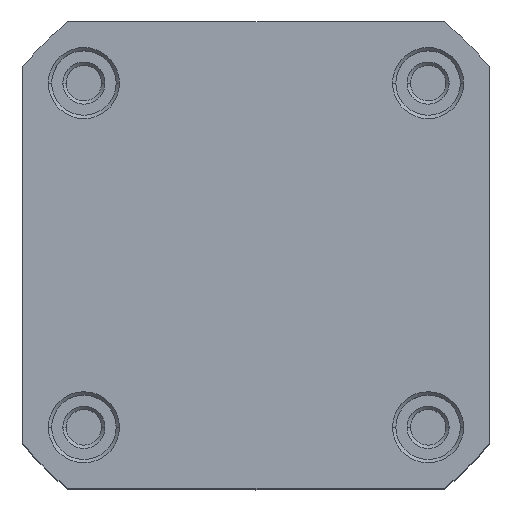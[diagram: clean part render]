
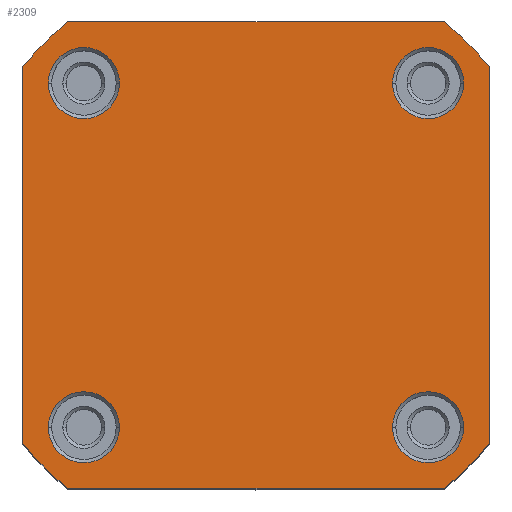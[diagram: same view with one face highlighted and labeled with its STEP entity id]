
A CAD part, top view. The second image highlights one B-rep face of the part: STEP entity #2309.
In plain terms, the highlighted planar face has unit normal (0, 0, 1).
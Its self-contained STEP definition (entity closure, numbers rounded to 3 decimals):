
#33 = CIRCLE ( 'NONE', #2644, 3.2 ) ;
#71 = LINE ( 'NONE', #3740, #2387 ) ;
#73 = CARTESIAN_POINT ( 'NONE',  ( -12.3, -15.5, 88. ) ) ;
#88 = CARTESIAN_POINT ( 'NONE',  ( 16.971, 21., 88. ) ) ;
#98 = LINE ( 'NONE', #2199, #3519 ) ;
#141 = CARTESIAN_POINT ( 'NONE',  ( -21., 16.971, 88. ) ) ;
#150 = EDGE_CURVE ( 'NONE', #611, #1398, #3432, .T. ) ;
#185 = EDGE_CURVE ( 'NONE', #3699, #4275, #71, .T. ) ;
#198 = DIRECTION ( 'NONE',  ( 1., 0., 0. ) ) ;
#200 = DIRECTION ( 'NONE',  ( 1., 0., 0. ) ) ;
#225 = DIRECTION ( 'NONE',  ( 1., 0., 0. ) ) ;
#253 = DIRECTION ( 'NONE',  ( 0., 0., -1. ) ) ;
#257 = DIRECTION ( 'NONE',  ( 0., 0., 1. ) ) ;
#259 = AXIS2_PLACEMENT_3D ( 'NONE', #907, #1886, #225 ) ;
#316 = AXIS2_PLACEMENT_3D ( 'NONE', #2484, #4107, #2444 ) ;
#329 = EDGE_CURVE ( 'NONE', #2884, #3475, #3039, .T. ) ;
#351 = EDGE_CURVE ( 'NONE', #1398, #2653, #3428, .T. ) ;
#356 = CARTESIAN_POINT ( 'NONE',  ( -16.971, 21., 88. ) ) ;
#406 = EDGE_CURVE ( 'NONE', #2632, #3703, #2531, .T. ) ;
#438 = EDGE_CURVE ( 'NONE', #3703, #2632, #1532, .T. ) ;
#453 = ORIENTED_EDGE ( 'NONE', *, *, #4204, .T. ) ;
#485 = DIRECTION ( 'NONE',  ( 1., 0., 0. ) ) ;
#547 = ORIENTED_EDGE ( 'NONE', *, *, #1919, .T. ) ;
#562 = EDGE_LOOP ( 'NONE', ( #4201, #3865 ) ) ;
#571 = CARTESIAN_POINT ( 'NONE',  ( -15.5, 15.5, 88. ) ) ;
#611 = VERTEX_POINT ( 'NONE', #3041 ) ;
#615 = CARTESIAN_POINT ( 'NONE',  ( 12.3, 15.5, 88. ) ) ;
#671 = ORIENTED_EDGE ( 'NONE', *, *, #2888, .T. ) ;
#760 = CARTESIAN_POINT ( 'NONE',  ( -18.7, 15.5, 88. ) ) ;
#844 = ORIENTED_EDGE ( 'NONE', *, *, #4299, .T. ) ;
#873 = DIRECTION ( 'NONE',  ( 0., 0., -1. ) ) ;
#891 = DIRECTION ( 'NONE',  ( 0., 1., 0. ) ) ;
#907 = CARTESIAN_POINT ( 'NONE',  ( 15.5, -15.5, 88. ) ) ;
#908 = ORIENTED_EDGE ( 'NONE', *, *, #3049, .T. ) ;
#921 = DIRECTION ( 'NONE',  ( 0., 0., -1. ) ) ;
#924 = AXIS2_PLACEMENT_3D ( 'NONE', #3780, #2860, #3118 ) ;
#946 = AXIS2_PLACEMENT_3D ( 'NONE', #3450, #1139, #485 ) ;
#1022 = FACE_OUTER_BOUND ( 'NONE', #2972, .T. ) ;
#1024 = CARTESIAN_POINT ( 'NONE',  ( -21., -16.971, 88. ) ) ;
#1110 = VECTOR ( 'NONE', #891, 1000. ) ;
#1114 = ORIENTED_EDGE ( 'NONE', *, *, #329, .T. ) ;
#1139 = DIRECTION ( 'NONE',  ( 0., 0., -1. ) ) ;
#1202 = DIRECTION ( 'NONE',  ( 1., 0., 0. ) ) ;
#1210 = EDGE_LOOP ( 'NONE', ( #2465, #453 ) ) ;
#1304 = EDGE_CURVE ( 'NONE', #2176, #1808, #2678, .T. ) ;
#1311 = DIRECTION ( 'NONE',  ( 0., 0., 1. ) ) ;
#1332 = CARTESIAN_POINT ( 'NONE',  ( 21., 16.971, 88. ) ) ;
#1339 = EDGE_CURVE ( 'NONE', #3475, #3495, #1889, .T. ) ;
#1398 = VERTEX_POINT ( 'NONE', #2912 ) ;
#1497 = DIRECTION ( 'NONE',  ( 0., -1., 0. ) ) ;
#1532 = CIRCLE ( 'NONE', #2554, 3.2 ) ;
#1590 = FACE_BOUND ( 'NONE', #2604, .T. ) ;
#1760 = DIRECTION ( 'NONE',  ( -1., 0., 0. ) ) ;
#1772 = CARTESIAN_POINT ( 'NONE',  ( 0., 0., 88. ) ) ;
#1773 = EDGE_CURVE ( 'NONE', #3495, #611, #98, .T. ) ;
#1808 = VERTEX_POINT ( 'NONE', #3070 ) ;
#1847 = FACE_BOUND ( 'NONE', #562, .T. ) ;
#1886 = DIRECTION ( 'NONE',  ( 0., 0., -1. ) ) ;
#1889 = CIRCLE ( 'NONE', #2394, 27. ) ;
#1919 = EDGE_CURVE ( 'NONE', #3055, #3482, #2207, .T. ) ;
#1951 = CARTESIAN_POINT ( 'NONE',  ( 21., -16.971, 88. ) ) ;
#1985 = CARTESIAN_POINT ( 'NONE',  ( -15.5, -15.5, 88. ) ) ;
#2128 = PLANE ( 'NONE',  #316 ) ;
#2176 = VERTEX_POINT ( 'NONE', #73 ) ;
#2199 = CARTESIAN_POINT ( 'NONE',  ( -16.971, -21., 88. ) ) ;
#2206 = CIRCLE ( 'NONE', #2450, 27. ) ;
#2207 = CIRCLE ( 'NONE', #259, 3.2 ) ;
#2213 = CARTESIAN_POINT ( 'NONE',  ( -15.5, 15.5, 88. ) ) ;
#2243 = CARTESIAN_POINT ( 'NONE',  ( -21., 16.971, 88. ) ) ;
#2277 = ORIENTED_EDGE ( 'NONE', *, *, #1304, .T. ) ;
#2309 = ADVANCED_FACE ( 'NONE', ( #1590, #4114, #1847, #3250, #1022 ), #2128, .T. ) ;
#2321 = CARTESIAN_POINT ( 'NONE',  ( 15.5, 15.5, 88. ) ) ;
#2327 = CARTESIAN_POINT ( 'NONE',  ( 18.7, -15.5, 88. ) ) ;
#2371 = AXIS2_PLACEMENT_3D ( 'NONE', #1772, #3452, #4074 ) ;
#2387 = VECTOR ( 'NONE', #1760, 1000. ) ;
#2394 = AXIS2_PLACEMENT_3D ( 'NONE', #3457, #2836, #200 ) ;
#2396 = EDGE_CURVE ( 'NONE', #3089, #2767, #33, .T. ) ;
#2401 = AXIS2_PLACEMENT_3D ( 'NONE', #2553, #257, #2882 ) ;
#2444 = DIRECTION ( 'NONE',  ( 1., 0., 0. ) ) ;
#2450 = AXIS2_PLACEMENT_3D ( 'NONE', #3328, #1311, #3616 ) ;
#2465 = ORIENTED_EDGE ( 'NONE', *, *, #2396, .T. ) ;
#2484 = CARTESIAN_POINT ( 'NONE',  ( 0., 0., 88. ) ) ;
#2531 = CIRCLE ( 'NONE', #3022, 3.2 ) ;
#2553 = CARTESIAN_POINT ( 'NONE',  ( 0., 0., 88. ) ) ;
#2554 = AXIS2_PLACEMENT_3D ( 'NONE', #571, #3198, #2848 ) ;
#2604 = EDGE_LOOP ( 'NONE', ( #671, #547 ) ) ;
#2632 = VERTEX_POINT ( 'NONE', #2701 ) ;
#2635 = CIRCLE ( 'NONE', #924, 3.2 ) ;
#2644 = AXIS2_PLACEMENT_3D ( 'NONE', #3819, #873, #1202 ) ;
#2653 = VERTEX_POINT ( 'NONE', #1332 ) ;
#2678 = CIRCLE ( 'NONE', #946, 3.2 ) ;
#2685 = CARTESIAN_POINT ( 'NONE',  ( 18.7, 15.5, 88. ) ) ;
#2701 = CARTESIAN_POINT ( 'NONE',  ( -12.3, 15.5, 88. ) ) ;
#2767 = VERTEX_POINT ( 'NONE', #615 ) ;
#2836 = DIRECTION ( 'NONE',  ( 0., 0., 1. ) ) ;
#2848 = DIRECTION ( 'NONE',  ( 1., 0., 0. ) ) ;
#2860 = DIRECTION ( 'NONE',  ( 0., 0., -1. ) ) ;
#2882 = DIRECTION ( 'NONE',  ( 1., 0., 0. ) ) ;
#2884 = VERTEX_POINT ( 'NONE', #141 ) ;
#2888 = EDGE_CURVE ( 'NONE', #3482, #3055, #2635, .T. ) ;
#2912 = CARTESIAN_POINT ( 'NONE',  ( 21., -16.971, 88. ) ) ;
#2937 = CIRCLE ( 'NONE', #2401, 27. ) ;
#2972 = EDGE_LOOP ( 'NONE', ( #3148, #1114, #3766, #3352, #4158, #3806, #844, #4159 ) ) ;
#3022 = AXIS2_PLACEMENT_3D ( 'NONE', #2213, #253, #3497 ) ;
#3039 = LINE ( 'NONE', #2243, #3385 ) ;
#3041 = CARTESIAN_POINT ( 'NONE',  ( 16.971, -21., 88. ) ) ;
#3049 = EDGE_CURVE ( 'NONE', #1808, #2176, #3793, .T. ) ;
#3055 = VERTEX_POINT ( 'NONE', #3849 ) ;
#3070 = CARTESIAN_POINT ( 'NONE',  ( -18.7, -15.5, 88. ) ) ;
#3089 = VERTEX_POINT ( 'NONE', #2685 ) ;
#3118 = DIRECTION ( 'NONE',  ( 1., 0., 0. ) ) ;
#3148 = ORIENTED_EDGE ( 'NONE', *, *, #3869, .T. ) ;
#3198 = DIRECTION ( 'NONE',  ( 0., 0., -1. ) ) ;
#3238 = DIRECTION ( 'NONE',  ( 1., 0., 0. ) ) ;
#3250 = FACE_BOUND ( 'NONE', #1210, .T. ) ;
#3273 = CARTESIAN_POINT ( 'NONE',  ( -16.971, -21., 88. ) ) ;
#3302 = DIRECTION ( 'NONE',  ( 0., 0., -1. ) ) ;
#3328 = CARTESIAN_POINT ( 'NONE',  ( 0., 0., 88. ) ) ;
#3352 = ORIENTED_EDGE ( 'NONE', *, *, #1773, .T. ) ;
#3385 = VECTOR ( 'NONE', #1497, 1000. ) ;
#3428 = LINE ( 'NONE', #1951, #1110 ) ;
#3432 = CIRCLE ( 'NONE', #2371, 27. ) ;
#3450 = CARTESIAN_POINT ( 'NONE',  ( -15.5, -15.5, 88. ) ) ;
#3452 = DIRECTION ( 'NONE',  ( 0., 0., 1. ) ) ;
#3457 = CARTESIAN_POINT ( 'NONE',  ( 0., 0., 88. ) ) ;
#3475 = VERTEX_POINT ( 'NONE', #1024 ) ;
#3482 = VERTEX_POINT ( 'NONE', #2327 ) ;
#3495 = VERTEX_POINT ( 'NONE', #3273 ) ;
#3497 = DIRECTION ( 'NONE',  ( 1., 0., 0. ) ) ;
#3513 = EDGE_LOOP ( 'NONE', ( #2277, #908 ) ) ;
#3519 = VECTOR ( 'NONE', #198, 1000. ) ;
#3616 = DIRECTION ( 'NONE',  ( 1., 0., 0. ) ) ;
#3699 = VERTEX_POINT ( 'NONE', #88 ) ;
#3703 = VERTEX_POINT ( 'NONE', #760 ) ;
#3740 = CARTESIAN_POINT ( 'NONE',  ( 16.971, 21., 88. ) ) ;
#3766 = ORIENTED_EDGE ( 'NONE', *, *, #1339, .T. ) ;
#3780 = CARTESIAN_POINT ( 'NONE',  ( 15.5, -15.5, 88. ) ) ;
#3793 = CIRCLE ( 'NONE', #4285, 3.2 ) ;
#3806 = ORIENTED_EDGE ( 'NONE', *, *, #351, .T. ) ;
#3819 = CARTESIAN_POINT ( 'NONE',  ( 15.5, 15.5, 88. ) ) ;
#3840 = CIRCLE ( 'NONE', #4061, 3.2 ) ;
#3849 = CARTESIAN_POINT ( 'NONE',  ( 12.3, -15.5, 88. ) ) ;
#3865 = ORIENTED_EDGE ( 'NONE', *, *, #438, .T. ) ;
#3869 = EDGE_CURVE ( 'NONE', #4275, #2884, #2937, .T. ) ;
#4061 = AXIS2_PLACEMENT_3D ( 'NONE', #2321, #921, #3238 ) ;
#4074 = DIRECTION ( 'NONE',  ( 1., 0., 0. ) ) ;
#4107 = DIRECTION ( 'NONE',  ( 0., 0., 1. ) ) ;
#4114 = FACE_BOUND ( 'NONE', #3513, .T. ) ;
#4158 = ORIENTED_EDGE ( 'NONE', *, *, #150, .T. ) ;
#4159 = ORIENTED_EDGE ( 'NONE', *, *, #185, .T. ) ;
#4201 = ORIENTED_EDGE ( 'NONE', *, *, #406, .T. ) ;
#4204 = EDGE_CURVE ( 'NONE', #2767, #3089, #3840, .T. ) ;
#4275 = VERTEX_POINT ( 'NONE', #356 ) ;
#4276 = DIRECTION ( 'NONE',  ( 1., 0., 0. ) ) ;
#4285 = AXIS2_PLACEMENT_3D ( 'NONE', #1985, #3302, #4276 ) ;
#4299 = EDGE_CURVE ( 'NONE', #2653, #3699, #2206, .T. ) ;
